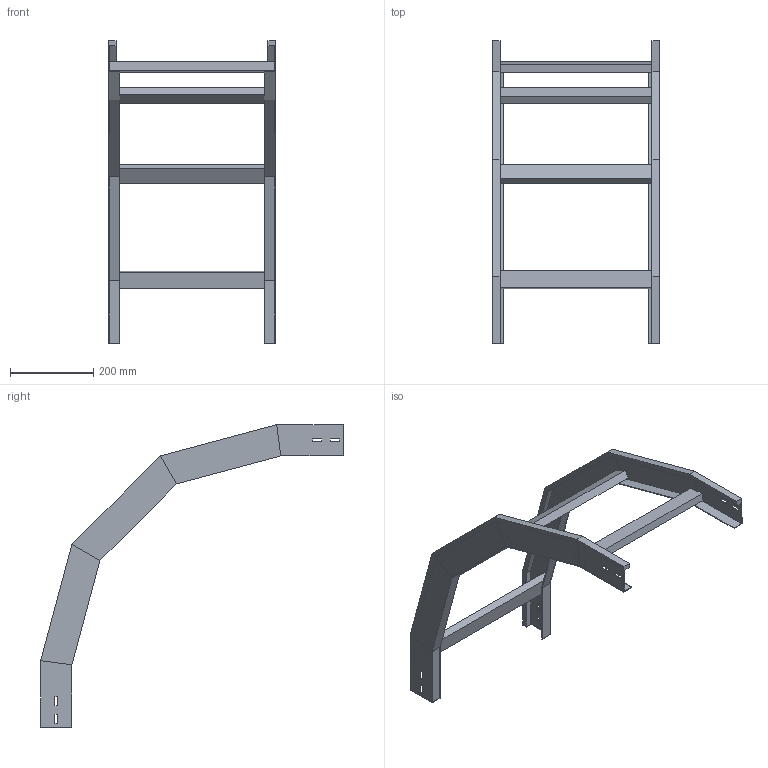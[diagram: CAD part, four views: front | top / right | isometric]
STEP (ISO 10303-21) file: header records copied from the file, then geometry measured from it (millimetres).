
FILE_DESCRIPTION (( 'STEP AP214' ), '1' );
FILE_NAME ('33B5C400.step', '2025-02-21T15:04:57', ( '' ), ( '' ), 'SwSTEP 2.0', 'SolidWorks 2023', '' );
FILE_SCHEMA (( 'AUTOMOTIVE_DESIGN' ));
Length unit declared in the file: millimetre
Products named in the file (3): TRAVERSINO_400; 33B5C400; LONGH.DISCESA_90°_H75_R500
Assembly tree (6 placements, depth 2):
  33B5C400
    LONGH.DISCESA_90°_H75_R500  x2
    TRAVERSINO_400  x4
Bounding box: 400 x 725.35 x 725.35 mm (x, y, z)
Volume: 2185437.3 mm3; surface area: 732200 mm2
Topology: 6 solids, 6 shells, 140 faces, 320 edges, 192 vertices
Faces by surface type: plane 140
Entity records: 1872 total; most frequent: CARTESIAN_POINT 309, ORIENTED_EDGE 296, DIRECTION 294, EDGE_CURVE 148, VECTOR 148, LINE 148, VERTEX_POINT 88, AXIS2_PLACEMENT_3D 73
